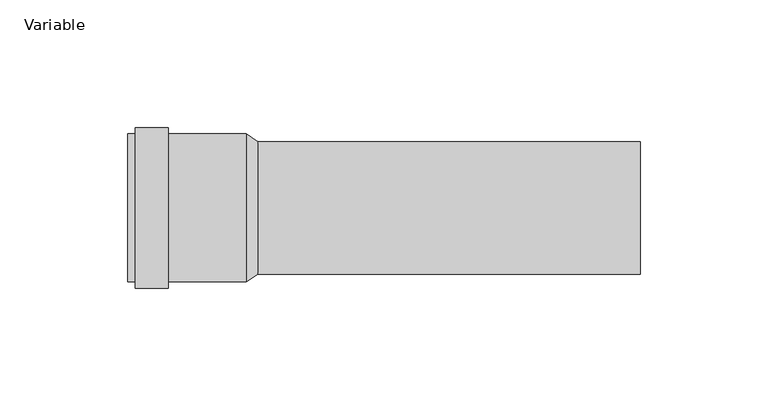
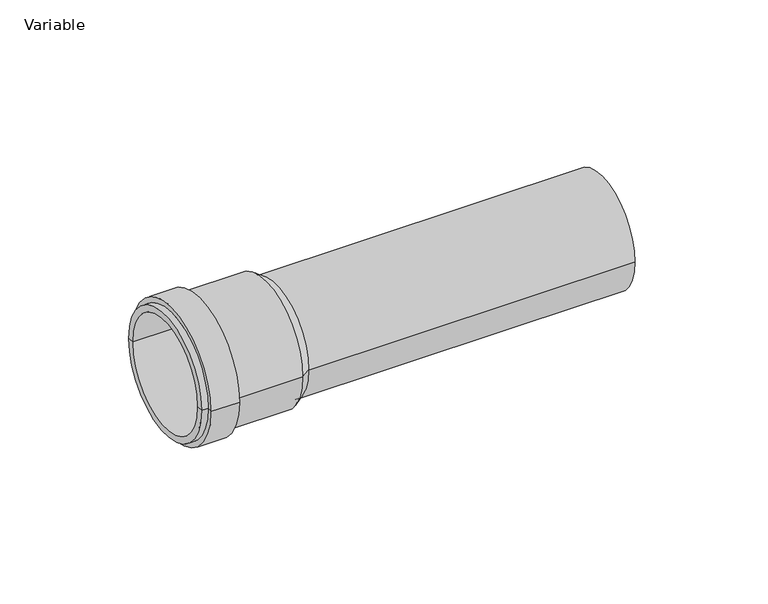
"""IFC4 building model written with IfcOpenShell, lengths in millimetres: pipe fitting geometry, AliaxisFR_Friaphon_LongCoupling_FR : Variable."""

from ifc_helpers import new_model, si_unit, point, frame, origin, origin_2d, place, context, project, spatial, polyline, circle_curve, trimmed, segment, composite_curve, outline, extrude, source, transform, mapped, element, save
from ifc_brep_helpers import plane_surface, cylinder_surface, revolved_surface, advanced_brep


def variable_f1eb093b(model_context):
    return source(origin(), model_context, "Body", "SolidModel", [
        advanced_brep(
        [(-124.5, 29.0, 0.0), (-124.5, -29.0, 0.0), (-124.5, -26.0, 0.0), (-124.5, 26.0, 0.0), (-108.5, 31.5, 0.0), (-108.5, -31.5, 0.0), (-121.5, -31.5, 0.0), (-121.5, 31.5, 0.0), (-108.5, 29.0, 0.0), (-108.5, -29.0, 0.0), (-78.0, 29.0, 0.0), (-78.0, -29.0, 0.0), (-73.5, -26.0, 0.0), (-73.5, 26.0, 0.0), (-121.5, 29.0, 0.0), (-121.5, -29.0, 0.0)],
        [
            (0, 1, circle_curve(frame((-124.5, 0.0, 0.0), z_axis=(-1.0, 0.0, 0.0), x_axis=(0.0, -1.0, 0.0)), 29.0)),
            (1, 2),
            (2, 3, circle_curve(frame((-124.5, 0.0, 0.0), z_axis=(1.0, 0.0, 0.0), x_axis=(0.0, -1.0, 0.0)), 26.0)),
            (3, 0),
            (1, 0, circle_curve(frame((-124.5, 0.0, 0.0), z_axis=(-1.0, 0.0, 0.0), x_axis=(0.0, -1.0, 0.0)), 29.0)),
            (3, 2, circle_curve(frame((-124.5, 0.0, 0.0), z_axis=(1.0, 0.0, 0.0), x_axis=(0.0, -1.0, 0.0)), 26.0)),
            (4, 5, circle_curve(frame((-108.5, 0.0, 0.0), z_axis=(-1.0, 0.0, 0.0), x_axis=(0.0, -1.0, 0.0)), 31.5)),
            (5, 6),
            (6, 7, circle_curve(frame((-121.5, 0.0, 0.0), z_axis=(1.0, 0.0, 0.0), x_axis=(0.0, -1.0, 0.0)), 31.5)),
            (7, 4),
            (5, 4, circle_curve(frame((-108.5, 0.0, 0.0), z_axis=(-1.0, 0.0, 0.0), x_axis=(0.0, -1.0, 0.0)), 31.5)),
            (7, 6, circle_curve(frame((-121.5, 0.0, 0.0), z_axis=(1.0, 0.0, 0.0), x_axis=(0.0, -1.0, 0.0)), 31.5)),
            (8, 9, circle_curve(frame((-108.5, 0.0, 0.0), z_axis=(-1.0, 0.0, 0.0), x_axis=(0.0, -1.0, 0.0)), 29.0)),
            (9, 5),
            (4, 8),
            (9, 8, circle_curve(frame((-108.5, 0.0, 0.0), z_axis=(-1.0, 0.0, 0.0), x_axis=(0.0, -1.0, 0.0)), 29.0)),
            (10, 11, circle_curve(frame((-78.0, 0.0, 0.0), z_axis=(-1.0, 0.0, 0.0), x_axis=(0.0, -1.0, 0.0)), 29.0)),
            (11, 9),
            (8, 10),
            (11, 10, circle_curve(frame((-78.0, 0.0, 0.0), z_axis=(-1.0, 0.0, 0.0), x_axis=(0.0, -1.0, 0.0)), 29.0)),
            (2, 12),
            (12, 13, circle_curve(frame((-73.5, 0.0, 0.0), z_axis=(1.0, 0.0, 0.0), x_axis=(0.0, -1.0, 0.0)), 26.0)),
            (13, 3),
            (13, 12, circle_curve(frame((-73.5, 0.0, 0.0), z_axis=(1.0, 0.0, 0.0), x_axis=(0.0, -1.0, 0.0)), 26.0)),
            (12, 11),
            (10, 13),
            (14, 15, circle_curve(frame((-121.5, 0.0, 0.0), z_axis=(-1.0, 0.0, 0.0), x_axis=(0.0, -1.0, 0.0)), 29.0)),
            (15, 1),
            (0, 14),
            (15, 14, circle_curve(frame((-121.5, 0.0, 0.0), z_axis=(-1.0, 0.0, 0.0), x_axis=(0.0, -1.0, 0.0)), 29.0)),
            (6, 15),
            (14, 7),
        ],
        [
            plane_surface(frame((-124.5, 0.0, 0.0), z_axis=(-1.0, 0.0, 0.0), x_axis=(0.0, -1.0, 0.0))),
            cylinder_surface(frame((-73.5, 0.0, 0.0), z_axis=(1.0, 0.0, 0.0), x_axis=(0.0, -1.0, 0.0)), 31.5),
            plane_surface(frame((-108.5, 0.0, 0.0), z_axis=(1.0, 0.0, 0.0), x_axis=(0.0, -1.0, 0.0))),
            cylinder_surface(frame((-73.5, 0.0, 0.0), z_axis=(1.0, 0.0, 0.0), x_axis=(0.0, -1.0, 0.0)), 29.0),
            revolved_surface(polyline([(-73.5, -26.0, 0.0), (-124.5, -26.0, 0.0)]), (-73.5, 0.0, 0.0), (1.0, 0.0, 0.0)),
            revolved_surface(polyline([(-78.0, -29.0, 0.0), (-73.5, -26.0, 0.0)]), (-73.5, 0.0, 0.0), (1.0, 0.0, 0.0)),
            plane_surface(frame((-121.5, 0.0, 0.0), z_axis=(-1.0, 0.0, 0.0), x_axis=(0.0, -1.0, 0.0))),
        ],
        [
            (0, [[1, 2, 3, 4]]),
            (0, [[5, -4, 6, -2]]),
            (1, [[7, 8, 9, 10]]),
            (1, [[11, -10, 12, -8]]),
            (2, [[13, 14, -7, 15]]),
            (2, [[16, -15, -11, -14]]),
            (3, [[17, 18, -13, 19]]),
            (3, [[20, -19, -16, -18]]),
            (4, [[-3, 21, 22, 23]]),
            (4, [[-6, -23, 24, -21]]),
            (5, [[-22, 25, -17, 26]]),
            (5, [[-24, -26, -20, -25]]),
            (3, [[27, 28, -1, 29]]),
            (3, [[30, -29, -5, -28]]),
            (6, [[-9, 31, -27, 32]]),
            (6, [[-12, -32, -30, -31]]),
        ],
    ),
        extrude(outline(composite_curve([segment(trimmed(circle_curve(origin_2d(), 26.0), [point((-26.0, 0.0))], [point((26.0, 0.0))], False, "CARTESIAN"), True, "CONTINUOUS"), segment(trimmed(circle_curve(origin_2d(), 26.0), [point((26.0, 0.0))], [point((-26.0, 0.0))], False, "CARTESIAN"), True, "CONTINUOUS")], self_intersect=False)), frame((-76.5, 0.0, 0.0), z_axis=(1.0, 0.0, 0.0), x_axis=(0.0, 1.0, 0.0)), (0.0, 0.0, 1.0), 153.0),
    ])


if __name__ == "__main__":
    model = new_model("IFC4")
    model_context = context("Model", 3, world=origin())
    ifc_project = project(units=[si_unit("LENGTHUNIT", "METRE", prefix="MILLI")], contexts=[model_context])
    site = spatial("IfcSite", under=ifc_project)
    building = spatial("IfcBuilding", under=site)
    placement = place(None, origin())
    variable_shape = variable_f1eb093b(model_context)
    element("IfcPipeFitting", 1, ObjectType="AliaxisFR_Friaphon_LongCoupling_FR : Variable", at=placement, inside=building, context=model_context, shape_type="MappedRepresentation", body=[
        mapped(variable_shape, transform((0.0, 0.0, 0.0), x_axis=(1.0, 0.0, 0.0), y_axis=(0.0, 1.0, 0.0), z_axis=(0.0, 0.0, 1.0))),
    ])
    save(model, "model.ifc")
